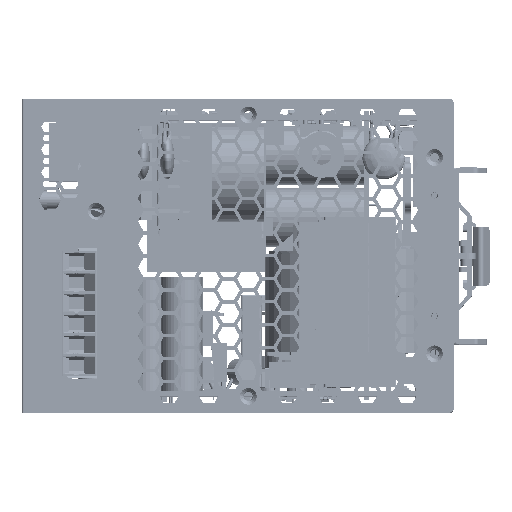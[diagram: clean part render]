
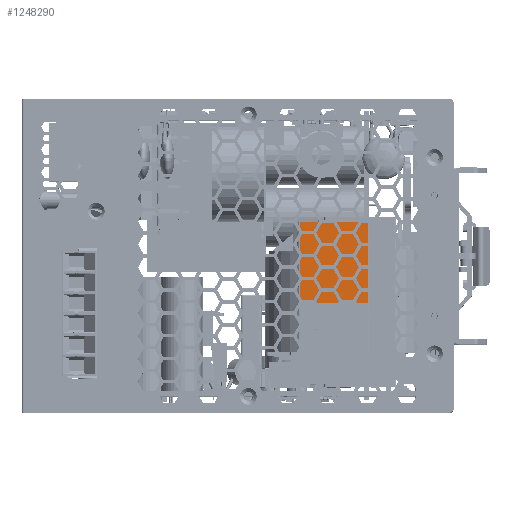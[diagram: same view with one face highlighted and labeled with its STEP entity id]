
A CAD part, top view. The second image highlights one B-rep face of the part: STEP entity #1248290.
In plain terms, the highlighted planar face has unit normal (0, 0, 1) as drawn and (1, 0, 0) by its records, which use the part's own axes.
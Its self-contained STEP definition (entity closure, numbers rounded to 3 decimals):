
#1243160=CARTESIAN_POINT('',(122.334,251.088,-31.));
#1243170=VERTEX_POINT('',#1243160);
#1243200=CARTESIAN_POINT('',(122.334,230.088,-31.));
#1243210=DIRECTION('',(0.,1.,0.));
#1243220=VECTOR('',#1243210,1.);
#1243230=LINE('',#1243200,#1243220);
#1243240=CARTESIAN_POINT('',(122.334,230.088,-31.));
#1243250=VERTEX_POINT('',#1243240);
#1243260=EDGE_CURVE('',#1243250,#1243170,#1243230,.T.);
#1247550=CARTESIAN_POINT('',(122.334,230.088,-55.8));
#1247560=VERTEX_POINT('',#1247550);
#1247590=CARTESIAN_POINT('',(122.334,230.088,-55.8));
#1247600=DIRECTION('',(0.,1.,0.));
#1247610=VECTOR('',#1247600,1.);
#1247620=LINE('',#1247590,#1247610);
#1247630=CARTESIAN_POINT('',(122.334,251.088,-55.8));
#1247640=VERTEX_POINT('',#1247630);
#1247650=EDGE_CURVE('',#1247560,#1247640,#1247620,.T.);
#1248040=CARTESIAN_POINT('',(122.334,230.088,-55.8));
#1248050=DIRECTION('',(0.,0.,1.));
#1248060=VECTOR('',#1248050,1.);
#1248070=LINE('',#1248040,#1248060);
#1248080=EDGE_CURVE('',#1247560,#1243250,#1248070,.T.);
#1248130=CARTESIAN_POINT('',(122.334,229.588,-31.));
#1248140=DIRECTION('',(1.,0.,0.));
#1248150=DIRECTION('',(0.,1.,0.));
#1248160=AXIS2_PLACEMENT_3D('',#1248130,#1248140,#1248150);
#1248170=PLANE('',#1248160);
#1248180=ORIENTED_EDGE('',*,*,#1243260,.F.);
#1248190=CARTESIAN_POINT('',(122.334,251.088,-31.));
#1248200=DIRECTION('',(0.,0.,-1.));
#1248210=VECTOR('',#1248200,1.);
#1248220=LINE('',#1248190,#1248210);
#1248230=EDGE_CURVE('',#1243170,#1247640,#1248220,.T.);
#1248240=ORIENTED_EDGE('',*,*,#1248230,.F.);
#1248250=ORIENTED_EDGE('',*,*,#1247650,.T.);
#1248260=ORIENTED_EDGE('',*,*,#1248080,.F.);
#1248270=EDGE_LOOP('',(#1248260,#1248250,#1248240,#1248180));
#1248280=FACE_OUTER_BOUND('',#1248270,.T.);
#1248290=ADVANCED_FACE('',(#1248280),#1248170,.T.);
